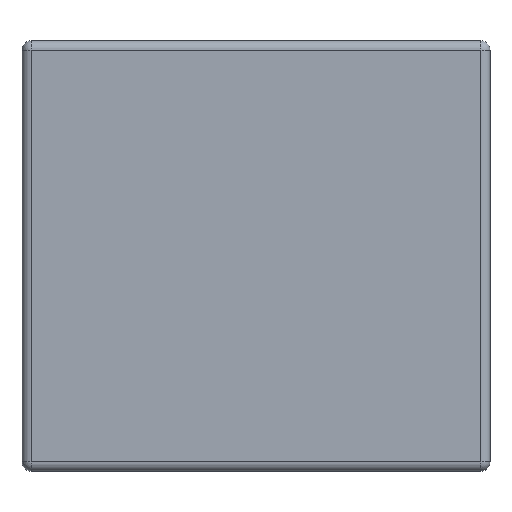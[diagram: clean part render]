
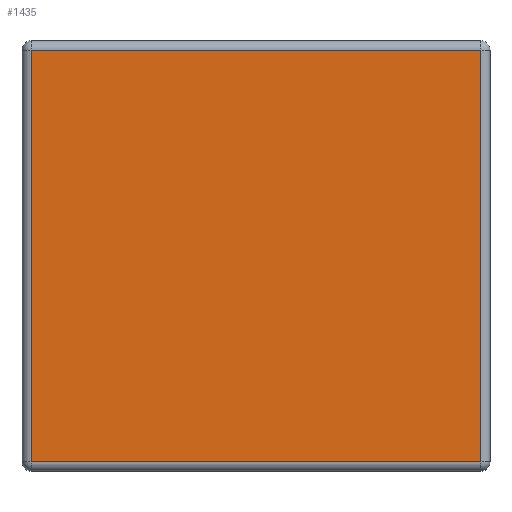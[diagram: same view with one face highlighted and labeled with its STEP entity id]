
A CAD part, front view. The second image highlights one B-rep face of the part: STEP entity #1435.
In plain terms, the highlighted planar face has unit normal (0, -1, 0).
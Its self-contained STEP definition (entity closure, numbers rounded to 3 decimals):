
#17=DIRECTION('',(0.,0.,-1.));
#18=VECTOR('',#17,22.);
#19=CARTESIAN_POINT('',(12.,0.,11.));
#20=LINE('',#19,#18);
#56=DIRECTION('',(-1.,0.,0.));
#57=VECTOR('',#56,24.);
#58=CARTESIAN_POINT('',(12.,0.,-11.));
#59=LINE('',#58,#57);
#319=DIRECTION('',(0.,0.,1.));
#320=VECTOR('',#319,22.);
#321=CARTESIAN_POINT('',(-12.,0.,-11.));
#322=LINE('',#321,#320);
#371=DIRECTION('',(1.,0.,0.));
#372=VECTOR('',#371,24.);
#373=CARTESIAN_POINT('',(-12.,0.,11.));
#374=LINE('',#373,#372);
#1028=CARTESIAN_POINT('',(12.,0.,11.));
#1029=CARTESIAN_POINT('',(12.,0.,-11.));
#1030=VERTEX_POINT('',#1028);
#1031=VERTEX_POINT('',#1029);
#1032=CARTESIAN_POINT('',(-12.,0.,11.));
#1033=VERTEX_POINT('',#1032);
#1034=CARTESIAN_POINT('',(-12.,0.,-11.));
#1035=VERTEX_POINT('',#1034);
#1424=CARTESIAN_POINT('',(0.,0.,0.));
#1425=DIRECTION('',(0.,1.,0.));
#1426=DIRECTION('',(0.,0.,1.));
#1427=AXIS2_PLACEMENT_3D('',#1424,#1425,#1426);
#1428=PLANE('',#1427);
#1429=ORIENTED_EDGE('',*,*,#1103,.T.);
#1430=ORIENTED_EDGE('',*,*,#1132,.T.);
#1431=ORIENTED_EDGE('',*,*,#1356,.T.);
#1432=ORIENTED_EDGE('',*,*,#1395,.T.);
#1433=EDGE_LOOP('',(#1429,#1430,#1431,#1432));
#1434=FACE_OUTER_BOUND('',#1433,.F.);
#1435=ADVANCED_FACE('',(#1434),#1428,.F.);
#1103=EDGE_CURVE('',#1030,#1031,#20,.T.);
#1132=EDGE_CURVE('',#1031,#1035,#59,.T.);
#1356=EDGE_CURVE('',#1035,#1033,#322,.T.);
#1395=EDGE_CURVE('',#1033,#1030,#374,.T.);
